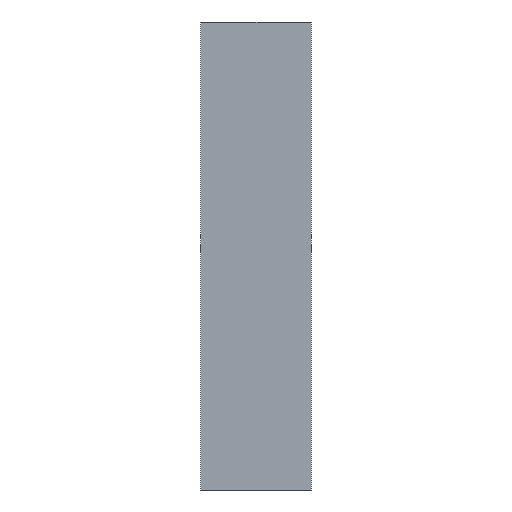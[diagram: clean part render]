
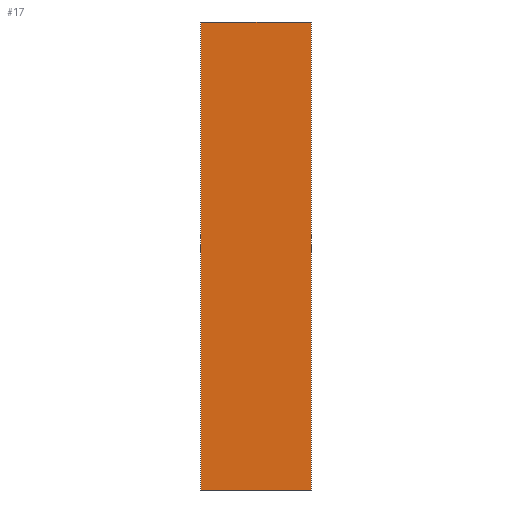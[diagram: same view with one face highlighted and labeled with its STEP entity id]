
A CAD part, left-side view. The second image highlights one B-rep face of the part: STEP entity #17.
In plain terms, the highlighted planar face has unit normal (-1, 0, 0).
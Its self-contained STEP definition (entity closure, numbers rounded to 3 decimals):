
#17 = ADVANCED_FACE('',(#18),#32,.F.);
#18 = FACE_BOUND('',#19,.F.);
#19 = EDGE_LOOP('',(#20,#55,#83,#111));
#20 = ORIENTED_EDGE('',*,*,#21,.F.);
#21 = EDGE_CURVE('',#22,#24,#26,.T.);
#22 = VERTEX_POINT('',#23);
#23 = CARTESIAN_POINT('',(-647.,-48.913,-3.));
#24 = VERTEX_POINT('',#25);
#25 = CARTESIAN_POINT('',(-647.,-48.913,14.));
#26 = SURFACE_CURVE('',#27,(#31,#43),.PCURVE_S1.);
#27 = LINE('',#28,#29);
#28 = CARTESIAN_POINT('',(-647.,-48.913,-3.));
#29 = VECTOR('',#30,1.);
#30 = DIRECTION('',(0.,0.,1.));
#31 = PCURVE('',#32,#37);
#32 = PLANE('',#33);
#33 = AXIS2_PLACEMENT_3D('',#34,#35,#36);
#34 = CARTESIAN_POINT('',(-647.,-48.913,-3.));
#35 = DIRECTION('',(1.,0.,-0.));
#36 = DIRECTION('',(0.,0.,1.));
#37 = DEFINITIONAL_REPRESENTATION('',(#38),#42);
#38 = LINE('',#39,#40);
#39 = CARTESIAN_POINT('',(0.,0.));
#40 = VECTOR('',#41,1.);
#41 = DIRECTION('',(1.,0.));
#42 = ( GEOMETRIC_REPRESENTATION_CONTEXT(2) 
PARAMETRIC_REPRESENTATION_CONTEXT() REPRESENTATION_CONTEXT('2D SPACE',''
  ) );
#43 = PCURVE('',#44,#49);
#44 = PLANE('',#45);
#45 = AXIS2_PLACEMENT_3D('',#46,#47,#48);
#46 = CARTESIAN_POINT('',(-647.,-48.913,-3.));
#47 = DIRECTION('',(-0.,1.,0.));
#48 = DIRECTION('',(0.,0.,1.));
#49 = DEFINITIONAL_REPRESENTATION('',(#50),#54);
#50 = LINE('',#51,#52);
#51 = CARTESIAN_POINT('',(0.,0.));
#52 = VECTOR('',#53,1.);
#53 = DIRECTION('',(1.,0.));
#54 = ( GEOMETRIC_REPRESENTATION_CONTEXT(2) 
PARAMETRIC_REPRESENTATION_CONTEXT() REPRESENTATION_CONTEXT('2D SPACE',''
  ) );
#55 = ORIENTED_EDGE('',*,*,#56,.T.);
#56 = EDGE_CURVE('',#22,#57,#59,.T.);
#57 = VERTEX_POINT('',#58);
#58 = CARTESIAN_POINT('',(-647.,-44.913,-3.));
#59 = SURFACE_CURVE('',#60,(#64,#71),.PCURVE_S1.);
#60 = LINE('',#61,#62);
#61 = CARTESIAN_POINT('',(-647.,-48.913,-3.));
#62 = VECTOR('',#63,1.);
#63 = DIRECTION('',(-0.,1.,0.));
#64 = PCURVE('',#32,#65);
#65 = DEFINITIONAL_REPRESENTATION('',(#66),#70);
#66 = LINE('',#67,#68);
#67 = CARTESIAN_POINT('',(0.,0.));
#68 = VECTOR('',#69,1.);
#69 = DIRECTION('',(0.,-1.));
#70 = ( GEOMETRIC_REPRESENTATION_CONTEXT(2) 
PARAMETRIC_REPRESENTATION_CONTEXT() REPRESENTATION_CONTEXT('2D SPACE',''
  ) );
#71 = PCURVE('',#72,#77);
#72 = PLANE('',#73);
#73 = AXIS2_PLACEMENT_3D('',#74,#75,#76);
#74 = CARTESIAN_POINT('',(-647.,-48.913,-3.));
#75 = DIRECTION('',(0.,0.,1.));
#76 = DIRECTION('',(1.,0.,-0.));
#77 = DEFINITIONAL_REPRESENTATION('',(#78),#82);
#78 = LINE('',#79,#80);
#79 = CARTESIAN_POINT('',(0.,0.));
#80 = VECTOR('',#81,1.);
#81 = DIRECTION('',(0.,1.));
#82 = ( GEOMETRIC_REPRESENTATION_CONTEXT(2) 
PARAMETRIC_REPRESENTATION_CONTEXT() REPRESENTATION_CONTEXT('2D SPACE',''
  ) );
#83 = ORIENTED_EDGE('',*,*,#84,.T.);
#84 = EDGE_CURVE('',#57,#85,#87,.T.);
#85 = VERTEX_POINT('',#86);
#86 = CARTESIAN_POINT('',(-647.,-44.913,14.));
#87 = SURFACE_CURVE('',#88,(#92,#99),.PCURVE_S1.);
#88 = LINE('',#89,#90);
#89 = CARTESIAN_POINT('',(-647.,-44.913,-3.));
#90 = VECTOR('',#91,1.);
#91 = DIRECTION('',(0.,0.,1.));
#92 = PCURVE('',#32,#93);
#93 = DEFINITIONAL_REPRESENTATION('',(#94),#98);
#94 = LINE('',#95,#96);
#95 = CARTESIAN_POINT('',(0.,-4.));
#96 = VECTOR('',#97,1.);
#97 = DIRECTION('',(1.,0.));
#98 = ( GEOMETRIC_REPRESENTATION_CONTEXT(2) 
PARAMETRIC_REPRESENTATION_CONTEXT() REPRESENTATION_CONTEXT('2D SPACE',''
  ) );
#99 = PCURVE('',#100,#105);
#100 = PLANE('',#101);
#101 = AXIS2_PLACEMENT_3D('',#102,#103,#104);
#102 = CARTESIAN_POINT('',(-647.,-44.913,-3.));
#103 = DIRECTION('',(-0.,1.,0.));
#104 = DIRECTION('',(0.,0.,1.));
#105 = DEFINITIONAL_REPRESENTATION('',(#106),#110);
#106 = LINE('',#107,#108);
#107 = CARTESIAN_POINT('',(0.,0.));
#108 = VECTOR('',#109,1.);
#109 = DIRECTION('',(1.,0.));
#110 = ( GEOMETRIC_REPRESENTATION_CONTEXT(2) 
PARAMETRIC_REPRESENTATION_CONTEXT() REPRESENTATION_CONTEXT('2D SPACE',''
  ) );
#111 = ORIENTED_EDGE('',*,*,#112,.F.);
#112 = EDGE_CURVE('',#24,#85,#113,.T.);
#113 = SURFACE_CURVE('',#114,(#118,#125),.PCURVE_S1.);
#114 = LINE('',#115,#116);
#115 = CARTESIAN_POINT('',(-647.,-48.913,14.));
#116 = VECTOR('',#117,1.);
#117 = DIRECTION('',(-0.,1.,0.));
#118 = PCURVE('',#32,#119);
#119 = DEFINITIONAL_REPRESENTATION('',(#120),#124);
#120 = LINE('',#121,#122);
#121 = CARTESIAN_POINT('',(17.,0.));
#122 = VECTOR('',#123,1.);
#123 = DIRECTION('',(0.,-1.));
#124 = ( GEOMETRIC_REPRESENTATION_CONTEXT(2) 
PARAMETRIC_REPRESENTATION_CONTEXT() REPRESENTATION_CONTEXT('2D SPACE',''
  ) );
#125 = PCURVE('',#126,#131);
#126 = PLANE('',#127);
#127 = AXIS2_PLACEMENT_3D('',#128,#129,#130);
#128 = CARTESIAN_POINT('',(-647.,-48.913,14.));
#129 = DIRECTION('',(0.,0.,1.));
#130 = DIRECTION('',(1.,0.,-0.));
#131 = DEFINITIONAL_REPRESENTATION('',(#132),#136);
#132 = LINE('',#133,#134);
#133 = CARTESIAN_POINT('',(0.,0.));
#134 = VECTOR('',#135,1.);
#135 = DIRECTION('',(0.,1.));
#136 = ( GEOMETRIC_REPRESENTATION_CONTEXT(2) 
PARAMETRIC_REPRESENTATION_CONTEXT() REPRESENTATION_CONTEXT('2D SPACE',''
  ) );
